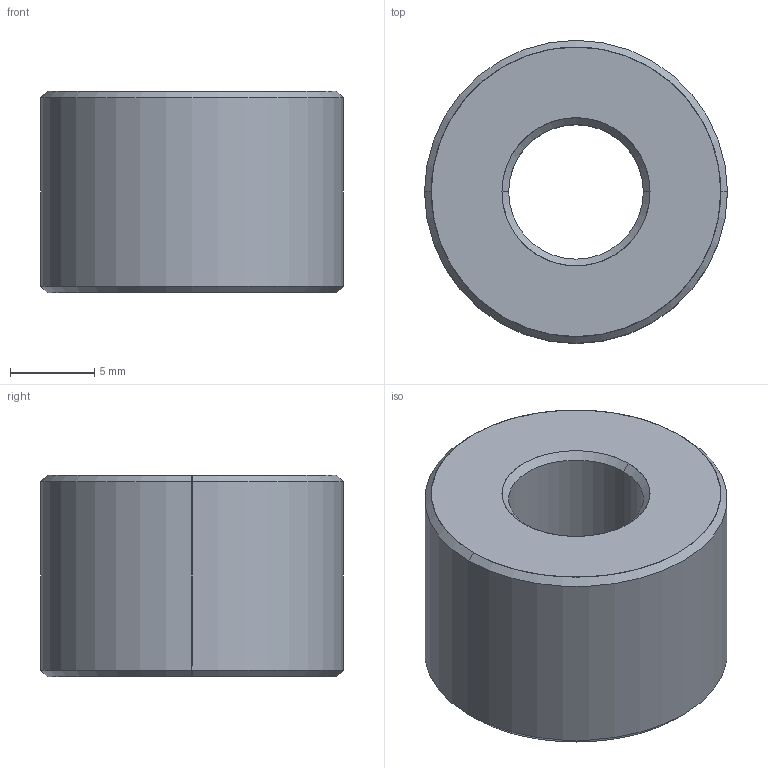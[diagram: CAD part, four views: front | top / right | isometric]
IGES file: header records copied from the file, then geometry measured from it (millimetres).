
Start section: SolidWorks IGES file using analytic representation for surfaces
Global section: file name: C:\Users\ianosborn\Desktop\L1339_v2\L1339_v2_20241024_IGES\L1339.R08-015.igs; native system: SolidWorks 2019; preprocessor: SolidWorks 2019; author: IanOsborn; date: 241024.150754; units: millimetre
Bounding box: 18 x 18 x 12 mm (x, y, z)
Surface area: 1350.3 mm2 (no closed solid volume)
Topology: 0 solids, 0 shells, 14 faces, 176 edges, 176 vertices
Faces by surface type: revolution 12, bspline 2
